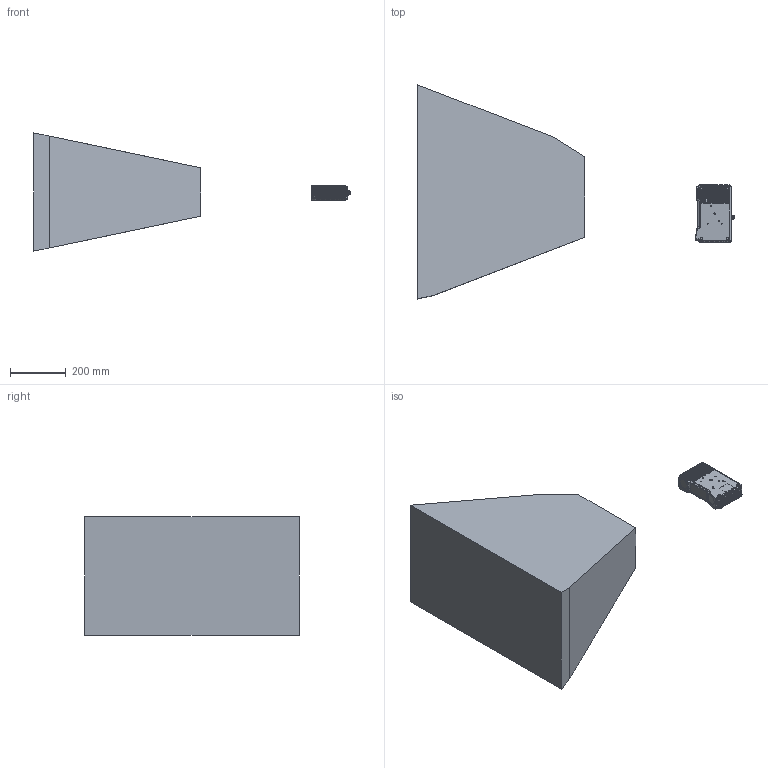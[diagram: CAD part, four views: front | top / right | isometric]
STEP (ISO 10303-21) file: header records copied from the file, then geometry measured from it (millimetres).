
FILE_DESCRIPTION((''),'2;1');
FILE_NAME('DFX808_ASM','2024-06-19T',('Ҧ'),(''),'PRO/ENGINEER BY PARAMETRIC TECHNOLOGY CORPORATION, 2010280','PRO/ENGINEER BY PARAMETRIC TECHNOLOGY CORPORATION, 2010280','');
FILE_SCHEMA(('CONFIG_CONTROL_DESIGN'));
Products named in the file (45): 808D; 220-0139-00-___3_1; P13-V3-_2_1_1; P13-V3-_2_2_1; P13-V3-_2_ASM_1_ASM; M1-7-5_1_1; 3010-AME; 0-M6SC_ASM_1_ASM_1_ASM; 806BEIBAN; COMS-BASLER; M0828-MPW3; LVGUANGPIAN; MIRCOUSB3_0__X90__1121_2; MIRCOUSB3_0__X90__1121-16016; MIRCOUSB3_0__X90__1121_3; MIRCOUSB3_0__X90__1121-10186_ASM; ____-USB3_0_MICROB______; MIRCOUSBX90________2305017_ASM; CHUFAXIAN-BAS; MVL-HF0624M-10MP; 806COM_ASM; 803-43; M2X24-3; M6S_QUDONGBAN1_2; LENS40; 808S; RUBBER-4; PCB-808; 155-0746-000_1; MANIFOLD_SOLID_BREP_53450; 142-63448-1GEN_A00_1; USB3; PMMA; 8-90; 8-M12; 8-M12-A; 8-90_ASM; USBAMX90__NEI; USBAMX90__; UABAMX90___ASM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
Assembly tree (54 placements, depth 5):
  DFX808_ASM
    808D
    0-M6SC_ASM_1_ASM_1_ASM
      220-0139-00-___3_1
      P13-V3-_2_ASM_1_ASM
        P13-V3-_2_1_1
        P13-V3-_2_2_1
      M1-7-5_1_1  x4
      3010-AME
    806COM_ASM
      806BEIBAN
      COMS-BASLER
      M0828-MPW3
      LVGUANGPIAN
      MIRCOUSBX90________2305017_ASM
        MIRCOUSB3_0__X90__1121-10186_ASM
          MIRCOUSB3_0__X90__1121_2
          MIRCOUSB3_0__X90__1121-16016
          MIRCOUSB3_0__X90__1121_3
        ____-USB3_0_MICROB______
      CHUFAXIAN-BAS
      MVL-HF0624M-10MP
    803-43
    M2X24-3  x2
    M6S_QUDONGBAN1_2
    LENS40  x2
    808S
    RUBBER-4  x3
    PCB-808_ASM
      PCB-808
      155-0746-000_1  x2
      MANIFOLD_SOLID_BREP_53450
      142-63448-1GEN_A00_1
      USB3
      PMMA  x3
      8-90_ASM
        8-90
        8-M12
        8-M12-A
      UABAMX90___ASM
        USBAMX90__NEI
        USBAMX90__
    808HUAN
    808-KA
    DC24-IP67
Bounding box: 1137.45 x 769.16 x 425.23 mm (x, y, z)
Volume: 104356981.1 mm3; surface area: 1753268.8 mm2
Topology: 48 solids, 51 shells, 7570 faces, 19917 edges, 12847 vertices
Faces by surface type: plane 4115, cylinder 2097, bspline 633, cone 509, torus 184, sphere 14, extrusion 14, revolution 4
Entity records: 250470 total; most frequent: CARTESIAN_POINT 66906, ORIENTED_EDGE 39108, DIRECTION 36765, EDGE_CURVE 19554, VERTEX_POINT 12629, AXIS2_PLACEMENT_3D 12404, VECTOR 11953, LINE 11939
